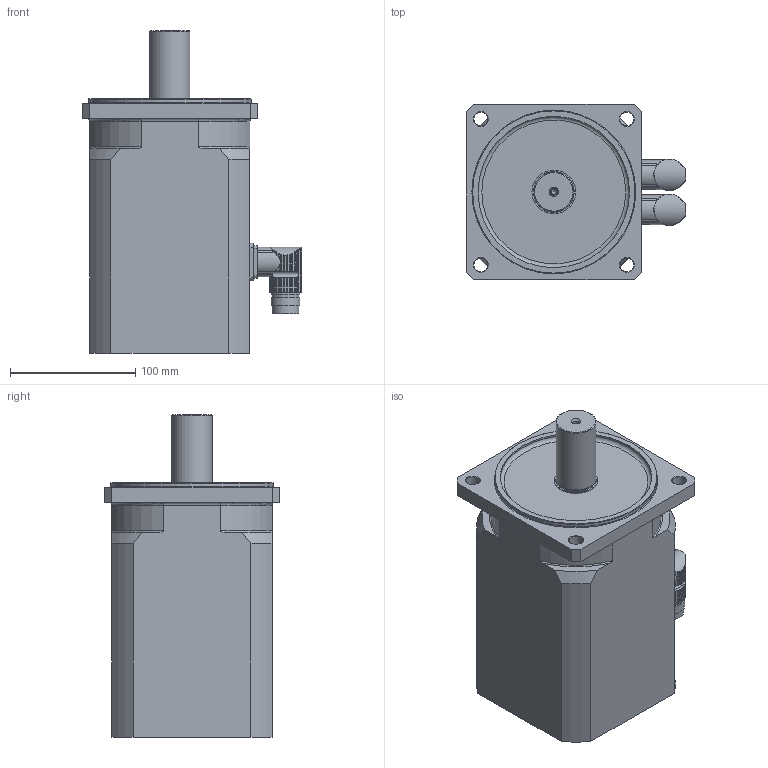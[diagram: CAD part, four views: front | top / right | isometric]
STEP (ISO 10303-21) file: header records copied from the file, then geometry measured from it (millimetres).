
FILE_DESCRIPTION(/* description */ (''),/* implementation_level */ '2;1');
FILE_NAME(/* name */ 'KSY 564 D-Rx',/* time_stamp */ '2007-01-03T15:27:49+01:00',/* author */ (''),/* organization */ (''),/* preprocessor_version */ 'ST-DEVELOPER v8',/* originating_system */ 'UNIGRAPHICS SOLUTIONS - UNIGRAPHICS 18.0',/* authorisation */ '');
FILE_SCHEMA (('AUTOMOTIVE_DESIGN { 1 2 10303 214 0 1 1 1 }'));
Length unit declared in the file: millimetre
Products named in the file (3): Winkelflanschdose_0; Rotor_SY5_0; KSY564D-RD_0
Assembly tree (3 placements, depth 2):
  KSY564D-RD_0
    Rotor_SY5_0
    Winkelflanschdose_0  x2
Bounding box: 175.49 x 140 x 258 mm (x, y, z)
Volume: 3303406.1 mm3; surface area: 164908.8 mm2
Topology: 4 solids, 4 shells, 410 faces, 1138 edges, 753 vertices
Faces by surface type: cylinder 315, plane 69, cone 13, torus 13
Full cylindrical faces by diameter (mm): 4.351 x1, 5.5 x1, 11 x4, 16 x2, 21 x2, 21.5 x2, 23 x4, 31.52 x1, 32 x1, 35 x1, 121 x1, 130 x1
Entity records: 8139 total; most frequent: CARTESIAN_POINT 2068, ORIENTED_EDGE 1262, DIRECTION 1198, EDGE_CURVE 631, AXIS2_PLACEMENT_3D 481, VERTEX_POINT 433, EDGE_LOOP 295, ADVANCED_FACE 246
